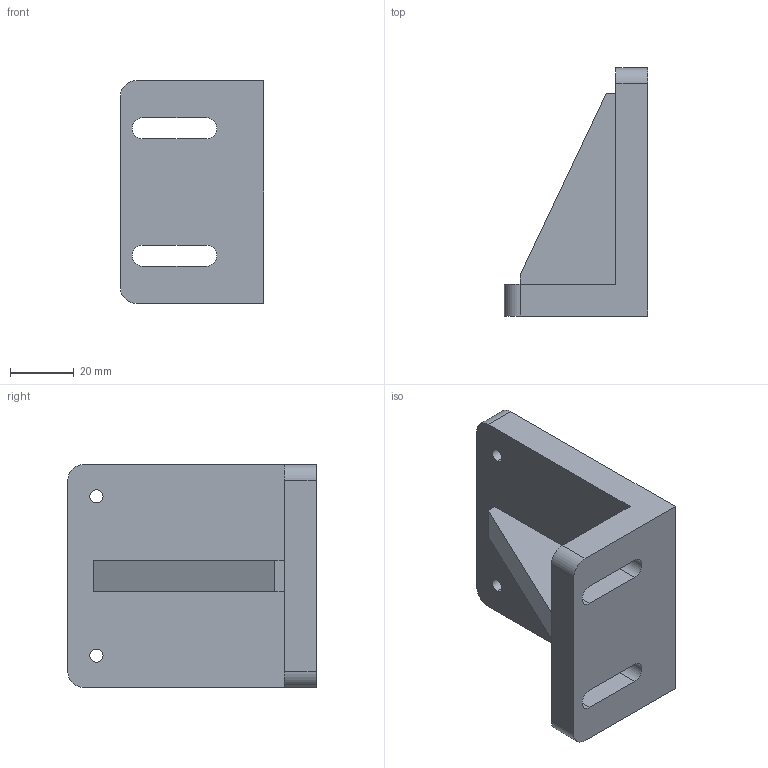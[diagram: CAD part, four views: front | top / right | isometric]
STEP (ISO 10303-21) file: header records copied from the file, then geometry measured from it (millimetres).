
FILE_DESCRIPTION (( 'STEP AP214' ), '1' );
FILE_NAME ('AGZ061.05.01_V1限位座.STEP', '2021-09-23T07:46:42', ( '微软中国' ), ( 'Microsoft' ), 'SwSTEP 2.0', 'SolidWorks 2017', '' );
FILE_SCHEMA (( 'AUTOMOTIVE_DESIGN' ));
Length unit declared in the file: millimetre
Products named in the file (1): AGZ061.05.01_V1癹弇釱
Bounding box: 45 x 78 x 70 mm (x, y, z)
Volume: 85597.7 mm3; surface area: 23758.9 mm2
Topology: 2 solids, 2 shells, 33 faces, 87 edges, 58 vertices
Faces by surface type: plane 19, cylinder 14
Entity records: 1132 total; most frequent: DIRECTION 183, CARTESIAN_POINT 179, ORIENTED_EDGE 174, EDGE_CURVE 87, AXIS2_PLACEMENT_3D 62, LINE 59, VECTOR 59, VERTEX_POINT 58
